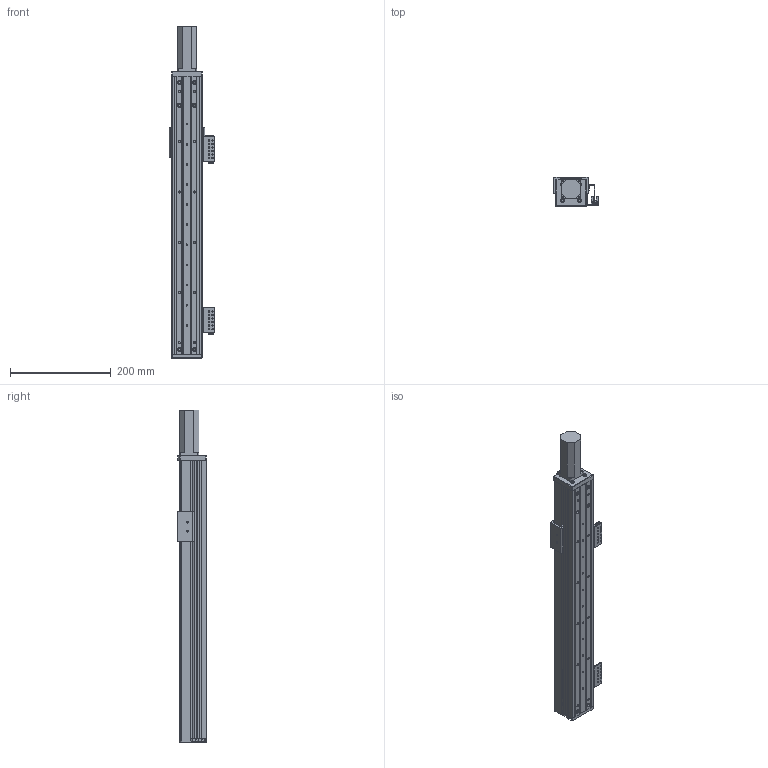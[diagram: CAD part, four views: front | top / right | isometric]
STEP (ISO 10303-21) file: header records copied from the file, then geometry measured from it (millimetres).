
FILE_DESCRIPTION (( 'STEP AP203' ), '1' );
FILE_NAME ('RY60FB-L1210-300-MK.SLDASM_350.step', '2021-02-22T08:25:32', ( '盈信电脑' ), ( '东莞市道滘镇水果街19号' ), 'SwSTEP 2.0', 'SolidWorks 2012', '' );
FILE_SCHEMA (( 'CONFIG_CONTROL_DESIGN' ));
Length unit declared in the file: millimetre
Products named in the file (14): RY60FB-674嫖萇耀輸; RY60FB-L1210-300-MK.SLDASM_350; RY80俋离覜茼え; RY60FB綴裔啣; RY60FB-感应器674光电安装座; 覜茼ん674; 侂狟100W; RY60FB-300-奻裔-MK_350; 滅袉蝶18-10; RY60FB前盖板100(M3); 滅袉蝶18-20; RY60FB-300-菁釱-MK_350; RY60FB-臏賑輸
Assembly tree (18 placements, depth 3):
  RY60FB-L1210-300-MK.SLDASM_350
    RY60FB-300-菁釱-MK_350
    RY60FB-臏賑輸
    滅袉蝶18-20  x2
    滅袉蝶18-10  x2
    RY60FB-300-奻裔-MK_350
    RY60FB前盖板100(M3)
    侂狟100W
    RY60FB綴裔啣
    RY60FB-674嫖萇耀輸
      RY60FB-感应器674光电安装座
      覜茼ん674  x2
    RY80俋离覜茼え
    RY60FB-674嫖萇耀輸
      RY60FB-感应器674光电安装座
      覜茼ん674
Bounding box: 90 x 58.5 x 660 mm (x, y, z)
Volume: 759815.2 mm3; surface area: 403490.6 mm2
Topology: 16 solids, 16 shells, 959 faces, 2644 edges, 1707 vertices
Faces by surface type: plane 474, cylinder 418, cone 67
Entity records: 26916 total; most frequent: CARTESIAN_POINT 5045, DIRECTION 4290, ORIENTED_EDGE 4188, EDGE_CURVE 2094, AXIS2_PLACEMENT_3D 1512, VERTEX_POINT 1363, VECTOR 1266, LINE 1266
